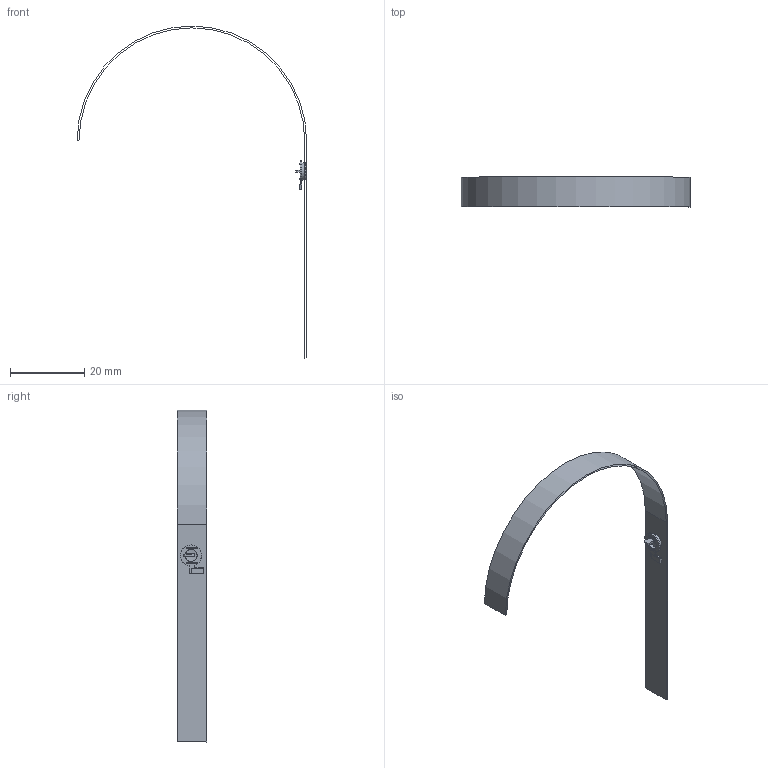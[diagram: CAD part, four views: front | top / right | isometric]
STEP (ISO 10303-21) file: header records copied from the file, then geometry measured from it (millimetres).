
FILE_DESCRIPTION((''),'2;1');
FILE_NAME('GTC01-A-MKT01_PRT','2008-06-30T',('GRA'),(''),'PRO/ENGINEER BY PARAMETRIC TECHNOLOGY CORPORATION, 2006170','PRO/ENGINEER BY PARAMETRIC TECHNOLOGY CORPORATION, 2006170','');
FILE_SCHEMA(('CONFIG_CONTROL_DESIGN'));
Length unit declared in the file: millimetre
Products named in the file (1): GTC01-A-MKT01_PRT
Bounding box: 62.08 x 8 x 89.7 mm (x, y, z)
Volume: 29.1 mm3; surface area: 2603.1 mm2
Topology: 1 solids, 3 shells, 55 faces, 137 edges, 93 vertices
Faces by surface type: plane 30, cone 6, cylinder 6, revolution 5, bspline 5, extrusion 3
Entity records: 2111 total; most frequent: CARTESIAN_POINT 806, ORIENTED_EDGE 262, DIRECTION 230, EDGE_CURVE 137, VERTEX_POINT 93, VECTOR 77, AXIS2_PLACEMENT_3D 74, LINE 74
